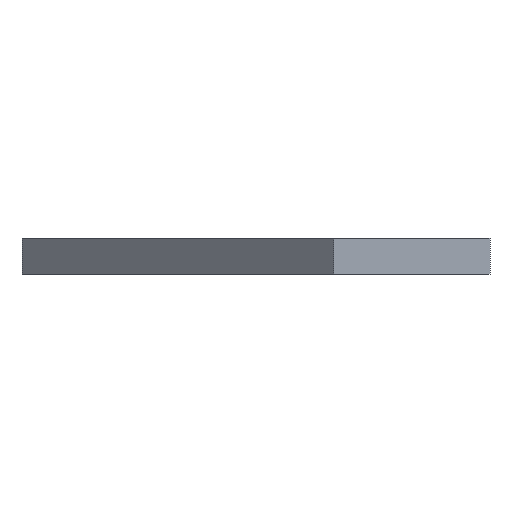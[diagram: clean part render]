
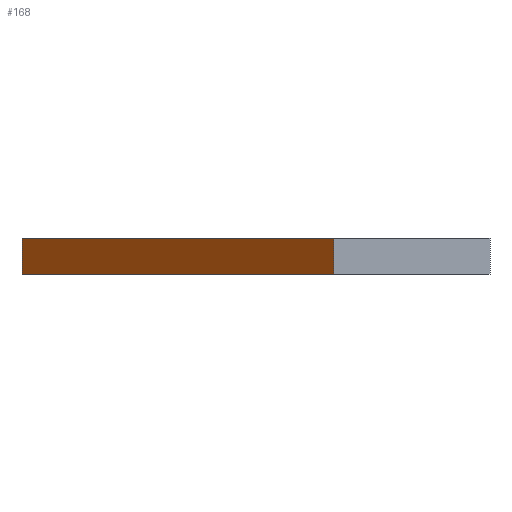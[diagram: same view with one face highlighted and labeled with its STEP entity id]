
A CAD part, front view. The second image highlights one B-rep face of the part: STEP entity #168.
In plain terms, the highlighted planar face has unit normal (-0.706, -0.708, 0).
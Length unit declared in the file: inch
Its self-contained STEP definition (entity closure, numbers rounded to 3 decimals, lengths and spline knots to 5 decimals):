
#168=ADVANCED_FACE('',(#336),#337,.T.);
#336=FACE_OUTER_BOUND('',#722,.T.);
#337=PLANE('',#723);
#722=EDGE_LOOP('',(#1045,#1046,#1047,#1048));
#723=AXIS2_PLACEMENT_3D('',#1049,#1050,#1051);
#1045=ORIENTED_EDGE('',*,*,#1182,.T.);
#1046=ORIENTED_EDGE('',*,*,#1189,.F.);
#1047=ORIENTED_EDGE('',*,*,#1235,.T.);
#1048=ORIENTED_EDGE('',*,*,#1236,.T.);
#1049=CARTESIAN_POINT('',(-1.62492,1.6208,0.0));
#1050=DIRECTION('',(-0.706,-0.708,0.0));
#1051=DIRECTION('',(0.708,-0.706,0.0));
#1182=EDGE_CURVE('',#1334,#1331,#1335,.T.);
#1189=EDGE_CURVE('',#1344,#1331,#1346,.T.);
#1235=EDGE_CURVE('',#1344,#1408,#1409,.T.);
#1236=EDGE_CURVE('',#1408,#1334,#1410,.T.);
#1331=VERTEX_POINT('',#1599);
#1334=VERTEX_POINT('',#1603);
#1335=LINE('',#1604,#1605);
#1344=VERTEX_POINT('',#1618);
#1346=LINE('',#1621,#1622);
#1408=VERTEX_POINT('',#1742);
#1409=LINE('',#1743,#1744);
#1410=LINE('',#1745,#1746);
#1599=CARTESIAN_POINT('',(-3.24983,3.24159,0.375));
#1603=CARTESIAN_POINT('',(0.,0.0,0.375));
#1604=CARTESIAN_POINT('',(-3.24983,3.24159,0.375));
#1605=VECTOR('',#1804,1.0);
#1618=CARTESIAN_POINT('',(-3.24983,3.24159,0.0));
#1621=CARTESIAN_POINT('',(-3.24983,3.24159,0.0));
#1622=VECTOR('',#1810,1.0);
#1742=CARTESIAN_POINT('',(0.,0.0,0.0));
#1743=CARTESIAN_POINT('',(-3.24983,3.24159,0.0));
#1744=VECTOR('',#1827,1.0);
#1745=CARTESIAN_POINT('',(0.,0.0,0.0));
#1746=VECTOR('',#1828,1.0);
#1804=DIRECTION('',(-0.708,0.706,0.0));
#1810=DIRECTION('',(0.0,0.0,1.0));
#1827=DIRECTION('',(0.708,-0.706,0.0));
#1828=DIRECTION('',(0.0,0.0,1.0));
